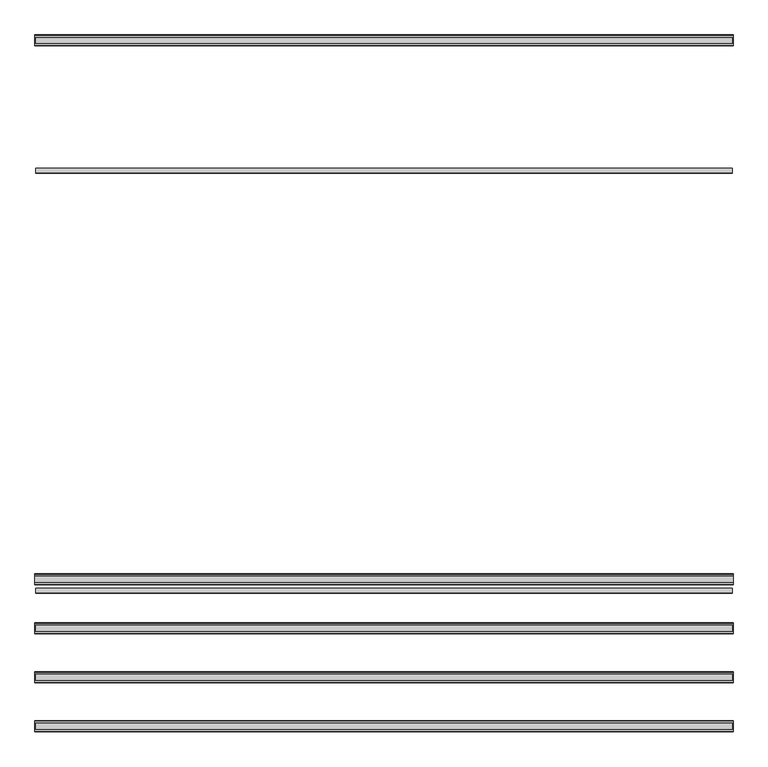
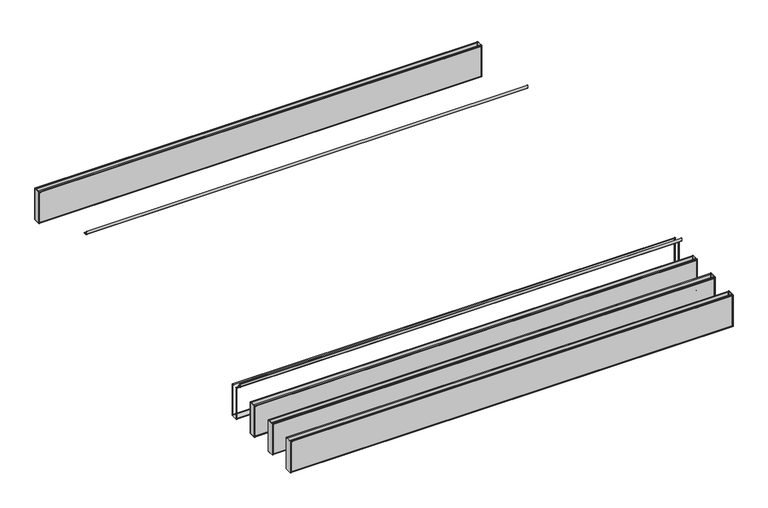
"""IFC4 building model written with IfcOpenShell, lengths in millimetres: proxy geometry, durlum_POLYLAM : durlum_POLYLAM 63."""

from ifc_helpers import new_model, si_unit, point, frame, frame_2d, origin, place, context, project, spatial, polyline, circle_curve, trimmed, segment, composite_curve, outline, extrude, source, transform, mapped, element, save
from ifc_brep_helpers import plane_surface, cylinder_surface, advanced_brep


def generic_models_7fa63ab6(model_context):
    return source(origin(), model_context, "Body", "SolidModel", [
        advanced_brep(
        [(1995.0, -1090.5, 2016.9), (1995.0, -1100.5, 2016.9), (1995.0, -1100.5, 2015.9), (1995.0, -1089.5, 2015.9), (1995.0, -1089.5, 1717.9), (1995.0, -1150.5, 1717.9), (1995.0, -1150.5, 2015.8155735), (1995.0, -1139.5, 2015.8155735), (1995.0, -1139.5, 2016.9), (1995.0, -1149.5, 2016.9), (1995.0, -1151.5, 2014.9), (1995.0, -1151.5, 1718.9), (1995.0, -1149.5, 1716.9), (1995.0, -1090.5, 1716.9), (1995.0, -1088.5, 1718.9), (1995.0, -1088.5, 2014.9), (-1995.0, -1090.5, 2016.9), (-1995.0, -1088.5, 2014.9), (-1995.0, -1088.5, 1718.9), (-1995.0, -1090.5, 1716.9), (-1995.0, -1149.5, 1716.9), (-1995.0, -1151.5, 1718.9), (-1995.0, -1151.5, 2014.9), (-1995.0, -1149.5, 2016.9), (-1995.0, -1139.5, 2016.9), (-1995.0, -1139.5, 2015.8155735), (-1995.0, -1150.5, 2015.8155735), (-1995.0, -1150.5, 1717.9), (-1995.0, -1089.5, 1717.9), (-1995.0, -1089.5, 2015.9), (-1995.0, -1100.5, 2015.9), (-1995.0, -1100.5, 2016.9), (-1986.5, -1089.5, 2008.4), (1986.5, -1089.5, 2008.4), (1986.5, -1089.5, 1725.4), (-1986.5, -1089.5, 1725.4), (1986.5, -1150.5, 2008.4), (-1986.5, -1150.5, 2008.4), (-1986.5, -1150.5, 1725.4), (1986.5, -1150.5, 1725.4), (-1986.5, -1151.5, 2008.4), (1986.5, -1151.5, 2008.4), (1986.5, -1151.5, 1725.4), (-1986.5, -1151.5, 1725.4), (1986.5, -1088.5, 2008.4), (-1986.5, -1088.5, 2008.4), (-1986.5, -1088.5, 1725.4), (1986.5, -1088.5, 1725.4)],
        [
            (0, 1),
            (1, 2),
            (2, 3),
            (3, 4),
            (4, 5),
            (5, 6),
            (6, 7),
            (7, 8),
            (8, 9),
            (9, 10, circle_curve(frame((1995.0, -1149.5, 2014.9), z_axis=(1.0, 0.0, 0.0), x_axis=(0.0, 1.0, 0.0)), 2.0)),
            (10, 11),
            (11, 12, circle_curve(frame((1995.0, -1149.5, 1718.9), z_axis=(1.0, 0.0, 0.0), x_axis=(0.0, 1.0, 0.0)), 2.0)),
            (12, 13),
            (13, 14, circle_curve(frame((1995.0, -1090.5, 1718.9), z_axis=(1.0, 0.0, 0.0), x_axis=(0.0, 1.0, 0.0)), 2.0)),
            (14, 15),
            (15, 0, circle_curve(frame((1995.0, -1090.5, 2014.9), z_axis=(1.0, 0.0, 0.0), x_axis=(0.0, 1.0, 0.0)), 2.0)),
            (16, 17, circle_curve(frame((-1995.0, -1090.5, 2014.9), z_axis=(-1.0, 0.0, 0.0), x_axis=(0.0, 1.0, 0.0)), 2.0)),
            (17, 18),
            (18, 19, circle_curve(frame((-1995.0, -1090.5, 1718.9), z_axis=(-1.0, 0.0, 0.0), x_axis=(0.0, 1.0, 0.0)), 2.0)),
            (19, 20),
            (20, 21, circle_curve(frame((-1995.0, -1149.5, 1718.9), z_axis=(-1.0, 0.0, 0.0), x_axis=(0.0, 1.0, 0.0)), 2.0)),
            (21, 22),
            (22, 23, circle_curve(frame((-1995.0, -1149.5, 2014.9), z_axis=(-1.0, 0.0, 0.0), x_axis=(0.0, 1.0, 0.0)), 2.0)),
            (23, 24),
            (24, 25),
            (25, 26),
            (26, 27),
            (27, 28),
            (28, 29),
            (29, 30),
            (30, 31),
            (31, 16),
            (0, 16),
            (31, 1),
            (30, 2),
            (29, 3),
            (28, 4),
            (32, 33),
            (33, 34),
            (34, 35),
            (35, 32),
            (27, 5),
            (26, 6),
            (36, 37),
            (37, 38),
            (38, 39),
            (39, 36),
            (25, 7),
            (24, 8),
            (23, 9),
            (10, 22),
            (21, 11),
            (40, 41),
            (41, 42),
            (42, 43),
            (43, 40),
            (12, 20),
            (19, 13),
            (14, 18),
            (17, 15),
            (44, 45),
            (45, 46),
            (46, 47),
            (47, 44),
            (44, 33),
            (32, 45),
            (36, 41),
            (40, 37),
            (35, 46),
            (43, 38),
            (34, 47),
            (42, 39),
        ],
        [
            plane_surface(frame((1995.0, -1100.5, 2016.9), z_axis=(1.0, 0.0, 0.0), x_axis=(0.0, -1.0, 0.0))),
            plane_surface(frame((-1995.0, -1100.5, 2016.9), z_axis=(-1.0, 0.0, 0.0), x_axis=(0.0, 1.0, 0.0))),
            plane_surface(frame((1995.0, -1090.5, 2016.9), z_axis=(0.0, 0.0, 1.0), x_axis=(-1.0, 0.0, 0.0))),
            plane_surface(frame((1995.0, -1100.5, 2016.9), z_axis=(0.0, -1.0, 0.0), x_axis=(-1.0, 0.0, 0.0))),
            plane_surface(frame((1995.0, -1100.5, 2015.9), z_axis=(0.0, 0.0, -1.0), x_axis=(-1.0, 0.0, 0.0))),
            plane_surface(frame((1995.0, -1089.5, 2015.9), z_axis=(0.0, -1.0, 0.0), x_axis=(-1.0, 0.0, 0.0))),
            plane_surface(frame((1995.0, -1089.5, 1717.9), z_axis=(0.0, 0.0, 1.0), x_axis=(-1.0, 0.0, 0.0))),
            plane_surface(frame((1995.0, -1150.5, 1717.9), z_axis=(0.0, 1.0, 0.0), x_axis=(-1.0, 0.0, 0.0))),
            plane_surface(frame((1995.0, -1150.5, 2015.8155735), z_axis=(0.0, 0.0, -1.0), x_axis=(-1.0, 0.0, 0.0))),
            plane_surface(frame((1995.0, -1139.5, 2015.8155735), z_axis=(0.0, 1.0, 0.0), x_axis=(-1.0, 0.0, 0.0))),
            plane_surface(frame((1995.0, -1139.5, 2016.9), z_axis=(0.0, 0.0, 1.0), x_axis=(-1.0, 0.0, 0.0))),
            plane_surface(frame((1995.0, -1151.5, 2014.9), z_axis=(0.0, -1.0, 0.0), x_axis=(-1.0, 0.0, 0.0))),
            plane_surface(frame((1995.0, -1149.5, 1716.9), z_axis=(0.0, 0.0, -1.0), x_axis=(-1.0, 0.0, 0.0))),
            plane_surface(frame((1995.0, -1088.5, 1718.9), z_axis=(0.0, 1.0, 0.0), x_axis=(-1.0, 0.0, 0.0))),
            cylinder_surface(frame((-1995.0, -1149.5, 2014.9), z_axis=(1.0, 0.0, 0.0), x_axis=(0.0, 1.0, 0.0)), 2.0),
            cylinder_surface(frame((-1995.0, -1149.5, 1718.9), z_axis=(1.0, 0.0, 0.0), x_axis=(0.0, 1.0, 0.0)), 2.0),
            cylinder_surface(frame((-1995.0, -1090.5, 1718.9), z_axis=(1.0, 0.0, 0.0), x_axis=(0.0, 1.0, 0.0)), 2.0),
            cylinder_surface(frame((-1995.0, -1090.5, 2014.9), z_axis=(1.0, 0.0, 0.0), x_axis=(0.0, 1.0, 0.0)), 2.0),
            plane_surface(frame((1986.5, -1151.5, 2008.4), z_axis=(0.0, 0.0, -1.0), x_axis=(0.0, 1.0, 0.0))),
            plane_surface(frame((-1986.5, -1151.5, 2008.4), z_axis=(1.0, 0.0, 0.0), x_axis=(0.0, 1.0, 0.0))),
            plane_surface(frame((-1986.5, -1151.5, 1725.4), z_axis=(0.0, 0.0, 1.0), x_axis=(0.0, 1.0, 0.0))),
            plane_surface(frame((1986.5, -1151.5, 1725.4), z_axis=(-1.0, 0.0, 0.0), x_axis=(0.0, 1.0, 0.0))),
        ],
        [
            (0, [[1, 2, 3, 4, 5, 6, 7, 8, 9, 10, 11, 12, 13, 14, 15, 16]]),
            (1, [[17, 18, 19, 20, 21, 22, 23, 24, 25, 26, 27, 28, 29, 30, 31, 32]]),
            (2, [[-1, 33, -32, 34]]),
            (3, [[-2, -34, -31, 35]]),
            (4, [[-3, -35, -30, 36]]),
            (5, [[-4, -36, -29, 37], [38, 39, 40, 41]]),
            (6, [[-5, -37, -28, 42]]),
            (7, [[-6, -42, -27, 43], [44, 45, 46, 47]]),
            (8, [[-7, -43, -26, 48]]),
            (9, [[-8, -48, -25, 49]]),
            (10, [[-9, -49, -24, 50]]),
            (11, [[-11, 51, -22, 52], [53, 54, 55, 56]]),
            (12, [[-13, 57, -20, 58]]),
            (13, [[-15, 59, -18, 60], [61, 62, 63, 64]]),
            (14, [[-10, -50, -23, -51]]),
            (15, [[-12, -52, -21, -57]]),
            (16, [[-14, -58, -19, -59]]),
            (17, [[-16, -60, -17, -33]]),
            (18, [[65, -38, 66, -61]]),
            (18, [[67, -53, 68, -44]]),
            (19, [[-66, -41, 69, -62]]),
            (19, [[-68, -56, 70, -45]]),
            (20, [[-69, -40, 71, -63]]),
            (20, [[-70, -55, 72, -46]]),
            (21, [[-65, -64, -71, -39]]),
            (21, [[-67, -47, -72, -54]]),
        ],
    ),
        extrude(outline(polyline([(1986.5, -1369.5), (-1986.5, -1369.5), (-1986.5, -1368.5), (1986.5, -1368.5), (1986.5, -1369.5)])), frame((0.0, 0.0, 1725.4), z_axis=(0.0, 0.0, 1.0), x_axis=(1.0, 0.0, 0.0)), (0.0, 0.0, 1.0), 283.0),
        extrude(outline(polyline([(1986.5, -1431.5), (-1986.5, -1431.5), (-1986.5, -1430.5), (1986.5, -1430.5), (1986.5, -1431.5)])), frame((0.0, 0.0, 1725.4), z_axis=(0.0, 0.0, 1.0), x_axis=(1.0, 0.0, 0.0)), (0.0, 0.0, 1.0), 283.0),
        extrude(outline(polyline([(1993.0, -1369.5), (1995.0, -1369.5), (1995.0, -1430.5), (1993.0, -1430.5), (1993.0, -1369.5)])), frame((0.0, 0.0, 1717.9), z_axis=(0.0, 0.0, 1.0), x_axis=(1.0, 0.0, 0.0)), (0.0, 0.0, 1.0), 298.0),
        extrude(outline(polyline([(-1995.0, -1369.5), (-1993.0, -1369.5), (-1993.0, -1430.5), (-1995.0, -1430.5), (-1995.0, -1369.5)])), frame((0.0, 0.0, 1717.9), z_axis=(0.0, 0.0, 1.0), x_axis=(1.0, 0.0, 0.0)), (0.0, 0.0, 1.0), 298.0),
        advanced_brep(
        [(1995.0, -1370.5, 2016.9), (1995.0, -1380.5, 2016.9), (1995.0, -1380.5, 2015.9), (1995.0, -1369.5, 2015.9), (1995.0, -1369.5, 1717.9), (1995.0, -1430.5, 1717.9), (1995.0, -1430.5, 2015.8155735), (1995.0, -1419.5, 2015.8155735), (1995.0, -1419.5, 2016.9), (1995.0, -1429.5, 2016.9), (1995.0, -1431.5, 2014.9), (1995.0, -1431.5, 1718.9), (1995.0, -1429.5, 1716.9), (1995.0, -1370.5, 1716.9), (1995.0, -1368.5, 1718.9), (1995.0, -1368.5, 2014.9), (-1995.0, -1370.5, 2016.9), (-1995.0, -1368.5, 2014.9), (-1995.0, -1368.5, 1718.9), (-1995.0, -1370.5, 1716.9), (-1995.0, -1429.5, 1716.9), (-1995.0, -1431.5, 1718.9), (-1995.0, -1431.5, 2014.9), (-1995.0, -1429.5, 2016.9), (-1995.0, -1419.5, 2016.9), (-1995.0, -1419.5, 2015.8155735), (-1995.0, -1430.5, 2015.8155735), (-1995.0, -1430.5, 1717.9), (-1995.0, -1369.5, 1717.9), (-1995.0, -1369.5, 2015.9), (-1995.0, -1380.5, 2015.9), (-1995.0, -1380.5, 2016.9), (-1986.5, -1369.5, 2008.4), (1986.5, -1369.5, 2008.4), (1986.5, -1369.5, 1725.4), (-1986.5, -1369.5, 1725.4), (1986.5, -1430.5, 2008.4), (-1986.5, -1430.5, 2008.4), (-1986.5, -1430.5, 1725.4), (1986.5, -1430.5, 1725.4), (-1986.5, -1431.5, 2008.4), (1986.5, -1431.5, 2008.4), (1986.5, -1431.5, 1725.4), (-1986.5, -1431.5, 1725.4), (1986.5, -1368.5, 2008.4), (-1986.5, -1368.5, 2008.4), (-1986.5, -1368.5, 1725.4), (1986.5, -1368.5, 1725.4)],
        [
            (0, 1),
            (1, 2),
            (2, 3),
            (3, 4),
            (4, 5),
            (5, 6),
            (6, 7),
            (7, 8),
            (8, 9),
            (9, 10, circle_curve(frame((1995.0, -1429.5, 2014.9), z_axis=(1.0, 0.0, 0.0), x_axis=(0.0, 1.0, 0.0)), 2.0)),
            (10, 11),
            (11, 12, circle_curve(frame((1995.0, -1429.5, 1718.9), z_axis=(1.0, 0.0, 0.0), x_axis=(0.0, 1.0, 0.0)), 2.0)),
            (12, 13),
            (13, 14, circle_curve(frame((1995.0, -1370.5, 1718.9), z_axis=(1.0, 0.0, 0.0), x_axis=(0.0, 1.0, 0.0)), 2.0)),
            (14, 15),
            (15, 0, circle_curve(frame((1995.0, -1370.5, 2014.9), z_axis=(1.0, 0.0, 0.0), x_axis=(0.0, 1.0, 0.0)), 2.0)),
            (16, 17, circle_curve(frame((-1995.0, -1370.5, 2014.9), z_axis=(-1.0, 0.0, 0.0), x_axis=(0.0, 1.0, 0.0)), 2.0)),
            (17, 18),
            (18, 19, circle_curve(frame((-1995.0, -1370.5, 1718.9), z_axis=(-1.0, 0.0, 0.0), x_axis=(0.0, 1.0, 0.0)), 2.0)),
            (19, 20),
            (20, 21, circle_curve(frame((-1995.0, -1429.5, 1718.9), z_axis=(-1.0, 0.0, 0.0), x_axis=(0.0, 1.0, 0.0)), 2.0)),
            (21, 22),
            (22, 23, circle_curve(frame((-1995.0, -1429.5, 2014.9), z_axis=(-1.0, 0.0, 0.0), x_axis=(0.0, 1.0, 0.0)), 2.0)),
            (23, 24),
            (24, 25),
            (25, 26),
            (26, 27),
            (27, 28),
            (28, 29),
            (29, 30),
            (30, 31),
            (31, 16),
            (0, 16),
            (31, 1),
            (30, 2),
            (29, 3),
            (28, 4),
            (32, 33),
            (33, 34),
            (34, 35),
            (35, 32),
            (27, 5),
            (26, 6),
            (36, 37),
            (37, 38),
            (38, 39),
            (39, 36),
            (25, 7),
            (24, 8),
            (23, 9),
            (10, 22),
            (21, 11),
            (40, 41),
            (41, 42),
            (42, 43),
            (43, 40),
            (12, 20),
            (19, 13),
            (14, 18),
            (17, 15),
            (44, 45),
            (45, 46),
            (46, 47),
            (47, 44),
            (44, 33),
            (32, 45),
            (36, 41),
            (40, 37),
            (35, 46),
            (43, 38),
            (34, 47),
            (42, 39),
        ],
        [
            plane_surface(frame((1995.0, -1380.5, 2016.9), z_axis=(1.0, 0.0, 0.0), x_axis=(0.0, -1.0, 0.0))),
            plane_surface(frame((-1995.0, -1380.5, 2016.9), z_axis=(-1.0, 0.0, 0.0), x_axis=(0.0, 1.0, 0.0))),
            plane_surface(frame((1995.0, -1370.5, 2016.9), z_axis=(0.0, 0.0, 1.0), x_axis=(-1.0, 0.0, 0.0))),
            plane_surface(frame((1995.0, -1380.5, 2016.9), z_axis=(0.0, -1.0, 0.0), x_axis=(-1.0, 0.0, 0.0))),
            plane_surface(frame((1995.0, -1380.5, 2015.9), z_axis=(0.0, 0.0, -1.0), x_axis=(-1.0, 0.0, 0.0))),
            plane_surface(frame((1995.0, -1369.5, 2015.9), z_axis=(0.0, -1.0, 0.0), x_axis=(-1.0, 0.0, 0.0))),
            plane_surface(frame((1995.0, -1369.5, 1717.9), z_axis=(0.0, 0.0, 1.0), x_axis=(-1.0, 0.0, 0.0))),
            plane_surface(frame((1995.0, -1430.5, 1717.9), z_axis=(0.0, 1.0, 0.0), x_axis=(-1.0, 0.0, 0.0))),
            plane_surface(frame((1995.0, -1430.5, 2015.8155735), z_axis=(0.0, 0.0, -1.0), x_axis=(-1.0, 0.0, 0.0))),
            plane_surface(frame((1995.0, -1419.5, 2015.8155735), z_axis=(0.0, 1.0, 0.0), x_axis=(-1.0, 0.0, 0.0))),
            plane_surface(frame((1995.0, -1419.5, 2016.9), z_axis=(0.0, 0.0, 1.0), x_axis=(-1.0, 0.0, 0.0))),
            plane_surface(frame((1995.0, -1431.5, 2014.9), z_axis=(0.0, -1.0, 0.0), x_axis=(-1.0, 0.0, 0.0))),
            plane_surface(frame((1995.0, -1429.5, 1716.9), z_axis=(0.0, 0.0, -1.0), x_axis=(-1.0, 0.0, 0.0))),
            plane_surface(frame((1995.0, -1368.5, 1718.9), z_axis=(0.0, 1.0, 0.0), x_axis=(-1.0, 0.0, 0.0))),
            cylinder_surface(frame((-1995.0, -1429.5, 2014.9), z_axis=(1.0, 0.0, 0.0), x_axis=(0.0, 1.0, 0.0)), 2.0),
            cylinder_surface(frame((-1995.0, -1429.5, 1718.9), z_axis=(1.0, 0.0, 0.0), x_axis=(0.0, 1.0, 0.0)), 2.0),
            cylinder_surface(frame((-1995.0, -1370.5, 1718.9), z_axis=(1.0, 0.0, 0.0), x_axis=(0.0, 1.0, 0.0)), 2.0),
            cylinder_surface(frame((-1995.0, -1370.5, 2014.9), z_axis=(1.0, 0.0, 0.0), x_axis=(0.0, 1.0, 0.0)), 2.0),
            plane_surface(frame((1986.5, -1431.5, 2008.4), z_axis=(0.0, 0.0, -1.0), x_axis=(0.0, 1.0, 0.0))),
            plane_surface(frame((-1986.5, -1431.5, 2008.4), z_axis=(1.0, 0.0, 0.0), x_axis=(0.0, 1.0, 0.0))),
            plane_surface(frame((-1986.5, -1431.5, 1725.4), z_axis=(0.0, 0.0, 1.0), x_axis=(0.0, 1.0, 0.0))),
            plane_surface(frame((1986.5, -1431.5, 1725.4), z_axis=(-1.0, 0.0, 0.0), x_axis=(0.0, 1.0, 0.0))),
        ],
        [
            (0, [[1, 2, 3, 4, 5, 6, 7, 8, 9, 10, 11, 12, 13, 14, 15, 16]]),
            (1, [[17, 18, 19, 20, 21, 22, 23, 24, 25, 26, 27, 28, 29, 30, 31, 32]]),
            (2, [[-1, 33, -32, 34]]),
            (3, [[-2, -34, -31, 35]]),
            (4, [[-3, -35, -30, 36]]),
            (5, [[-4, -36, -29, 37], [38, 39, 40, 41]]),
            (6, [[-5, -37, -28, 42]]),
            (7, [[-6, -42, -27, 43], [44, 45, 46, 47]]),
            (8, [[-7, -43, -26, 48]]),
            (9, [[-8, -48, -25, 49]]),
            (10, [[-9, -49, -24, 50]]),
            (11, [[-11, 51, -22, 52], [53, 54, 55, 56]]),
            (12, [[-13, 57, -20, 58]]),
            (13, [[-15, 59, -18, 60], [61, 62, 63, 64]]),
            (14, [[-10, -50, -23, -51]]),
            (15, [[-12, -52, -21, -57]]),
            (16, [[-14, -58, -19, -59]]),
            (17, [[-16, -60, -17, -33]]),
            (18, [[65, -38, 66, -61]]),
            (18, [[67, -53, 68, -44]]),
            (19, [[-66, -41, 69, -62]]),
            (19, [[-68, -56, 70, -45]]),
            (20, [[-69, -40, 71, -63]]),
            (20, [[-70, -55, 72, -46]]),
            (21, [[-65, -64, -71, -39]]),
            (21, [[-67, -47, -72, -54]]),
        ],
    ),
        extrude(outline(polyline([(1986.5, -1649.5), (-1986.5, -1649.5), (-1986.5, -1648.5), (1986.5, -1648.5), (1986.5, -1649.5)])), frame((0.0, 0.0, 1725.4), z_axis=(0.0, 0.0, 1.0), x_axis=(1.0, 0.0, 0.0)), (0.0, 0.0, 1.0), 283.0),
        extrude(outline(polyline([(1986.5, -1711.5), (-1986.5, -1711.5), (-1986.5, -1710.5), (1986.5, -1710.5), (1986.5, -1711.5)])), frame((0.0, 0.0, 1725.4), z_axis=(0.0, 0.0, 1.0), x_axis=(1.0, 0.0, 0.0)), (0.0, 0.0, 1.0), 283.0),
        extrude(outline(polyline([(1993.0, -1649.5), (1995.0, -1649.5), (1995.0, -1710.5), (1993.0, -1710.5), (1993.0, -1649.5)])), frame((0.0, 0.0, 1717.9), z_axis=(0.0, 0.0, 1.0), x_axis=(1.0, 0.0, 0.0)), (0.0, 0.0, 1.0), 298.0),
        extrude(outline(polyline([(-1995.0, -1649.5), (-1993.0, -1649.5), (-1993.0, -1710.5), (-1995.0, -1710.5), (-1995.0, -1649.5)])), frame((0.0, 0.0, 1717.9), z_axis=(0.0, 0.0, 1.0), x_axis=(1.0, 0.0, 0.0)), (0.0, 0.0, 1.0), 298.0),
        advanced_brep(
        [(1995.0, -1650.5, 2016.9), (1995.0, -1660.5, 2016.9), (1995.0, -1660.5, 2015.9), (1995.0, -1649.5, 2015.9), (1995.0, -1649.5, 1717.9), (1995.0, -1710.5, 1717.9), (1995.0, -1710.5, 2015.8155735), (1995.0, -1699.5, 2015.8155735), (1995.0, -1699.5, 2016.9), (1995.0, -1709.5, 2016.9), (1995.0, -1711.5, 2014.9), (1995.0, -1711.5, 1718.9), (1995.0, -1709.5, 1716.9), (1995.0, -1650.5, 1716.9), (1995.0, -1648.5, 1718.9), (1995.0, -1648.5, 2014.9), (-1995.0, -1650.5, 2016.9), (-1995.0, -1648.5, 2014.9), (-1995.0, -1648.5, 1718.9), (-1995.0, -1650.5, 1716.9), (-1995.0, -1709.5, 1716.9), (-1995.0, -1711.5, 1718.9), (-1995.0, -1711.5, 2014.9), (-1995.0, -1709.5, 2016.9), (-1995.0, -1699.5, 2016.9), (-1995.0, -1699.5, 2015.8155735), (-1995.0, -1710.5, 2015.8155735), (-1995.0, -1710.5, 1717.9), (-1995.0, -1649.5, 1717.9), (-1995.0, -1649.5, 2015.9), (-1995.0, -1660.5, 2015.9), (-1995.0, -1660.5, 2016.9), (-1986.5, -1649.5, 2008.4), (1986.5, -1649.5, 2008.4), (1986.5, -1649.5, 1725.4), (-1986.5, -1649.5, 1725.4), (1986.5, -1710.5, 2008.4), (-1986.5, -1710.5, 2008.4), (-1986.5, -1710.5, 1725.4), (1986.5, -1710.5, 1725.4), (-1986.5, -1711.5, 2008.4), (1986.5, -1711.5, 2008.4), (1986.5, -1711.5, 1725.4), (-1986.5, -1711.5, 1725.4), (1986.5, -1648.5, 2008.4), (-1986.5, -1648.5, 2008.4), (-1986.5, -1648.5, 1725.4), (1986.5, -1648.5, 1725.4)],
        [
            (0, 1),
            (1, 2),
            (2, 3),
            (3, 4),
            (4, 5),
            (5, 6),
            (6, 7),
            (7, 8),
            (8, 9),
            (9, 10, circle_curve(frame((1995.0, -1709.5, 2014.9), z_axis=(1.0, 0.0, 0.0), x_axis=(0.0, 1.0, 0.0)), 2.0)),
            (10, 11),
            (11, 12, circle_curve(frame((1995.0, -1709.5, 1718.9), z_axis=(1.0, 0.0, 0.0), x_axis=(0.0, 1.0, 0.0)), 2.0)),
            (12, 13),
            (13, 14, circle_curve(frame((1995.0, -1650.5, 1718.9), z_axis=(1.0, 0.0, 0.0), x_axis=(0.0, 1.0, 0.0)), 2.0)),
            (14, 15),
            (15, 0, circle_curve(frame((1995.0, -1650.5, 2014.9), z_axis=(1.0, 0.0, 0.0), x_axis=(0.0, 1.0, 0.0)), 2.0)),
            (16, 17, circle_curve(frame((-1995.0, -1650.5, 2014.9), z_axis=(-1.0, 0.0, 0.0), x_axis=(0.0, 1.0, 0.0)), 2.0)),
            (17, 18),
            (18, 19, circle_curve(frame((-1995.0, -1650.5, 1718.9), z_axis=(-1.0, 0.0, 0.0), x_axis=(0.0, 1.0, 0.0)), 2.0)),
            (19, 20),
            (20, 21, circle_curve(frame((-1995.0, -1709.5, 1718.9), z_axis=(-1.0, 0.0, 0.0), x_axis=(0.0, 1.0, 0.0)), 2.0)),
            (21, 22),
            (22, 23, circle_curve(frame((-1995.0, -1709.5, 2014.9), z_axis=(-1.0, 0.0, 0.0), x_axis=(0.0, 1.0, 0.0)), 2.0)),
            (23, 24),
            (24, 25),
            (25, 26),
            (26, 27),
            (27, 28),
            (28, 29),
            (29, 30),
            (30, 31),
            (31, 16),
            (0, 16),
            (31, 1),
            (30, 2),
            (29, 3),
            (28, 4),
            (32, 33),
            (33, 34),
            (34, 35),
            (35, 32),
            (27, 5),
            (26, 6),
            (36, 37),
            (37, 38),
            (38, 39),
            (39, 36),
            (25, 7),
            (24, 8),
            (23, 9),
            (10, 22),
            (21, 11),
            (40, 41),
            (41, 42),
            (42, 43),
            (43, 40),
            (12, 20),
            (19, 13),
            (14, 18),
            (17, 15),
            (44, 45),
            (45, 46),
            (46, 47),
            (47, 44),
            (44, 33),
            (32, 45),
            (36, 41),
            (40, 37),
            (35, 46),
            (43, 38),
            (34, 47),
            (42, 39),
        ],
        [
            plane_surface(frame((1995.0, -1660.5, 2016.9), z_axis=(1.0, 0.0, 0.0), x_axis=(0.0, -1.0, 0.0))),
            plane_surface(frame((-1995.0, -1660.5, 2016.9), z_axis=(-1.0, 0.0, 0.0), x_axis=(0.0, 1.0, 0.0))),
            plane_surface(frame((1995.0, -1650.5, 2016.9), z_axis=(0.0, 0.0, 1.0), x_axis=(-1.0, 0.0, 0.0))),
            plane_surface(frame((1995.0, -1660.5, 2016.9), z_axis=(0.0, -1.0, 0.0), x_axis=(-1.0, 0.0, 0.0))),
            plane_surface(frame((1995.0, -1660.5, 2015.9), z_axis=(0.0, 0.0, -1.0), x_axis=(-1.0, 0.0, 0.0))),
            plane_surface(frame((1995.0, -1649.5, 2015.9), z_axis=(0.0, -1.0, 0.0), x_axis=(-1.0, 0.0, 0.0))),
            plane_surface(frame((1995.0, -1649.5, 1717.9), z_axis=(0.0, 0.0, 1.0), x_axis=(-1.0, 0.0, 0.0))),
            plane_surface(frame((1995.0, -1710.5, 1717.9), z_axis=(0.0, 1.0, 0.0), x_axis=(-1.0, 0.0, 0.0))),
            plane_surface(frame((1995.0, -1710.5, 2015.8155735), z_axis=(0.0, 0.0, -1.0), x_axis=(-1.0, 0.0, 0.0))),
            plane_surface(frame((1995.0, -1699.5, 2015.8155735), z_axis=(0.0, 1.0, 0.0), x_axis=(-1.0, 0.0, 0.0))),
            plane_surface(frame((1995.0, -1699.5, 2016.9), z_axis=(0.0, 0.0, 1.0), x_axis=(-1.0, 0.0, 0.0))),
            plane_surface(frame((1995.0, -1711.5, 2014.9), z_axis=(0.0, -1.0, 0.0), x_axis=(-1.0, 0.0, 0.0))),
            plane_surface(frame((1995.0, -1709.5, 1716.9), z_axis=(0.0, 0.0, -1.0), x_axis=(-1.0, 0.0, 0.0))),
            plane_surface(frame((1995.0, -1648.5, 1718.9), z_axis=(0.0, 1.0, 0.0), x_axis=(-1.0, 0.0, 0.0))),
            cylinder_surface(frame((-1995.0, -1709.5, 2014.9), z_axis=(1.0, 0.0, 0.0), x_axis=(0.0, 1.0, 0.0)), 2.0),
            cylinder_surface(frame((-1995.0, -1709.5, 1718.9), z_axis=(1.0, 0.0, 0.0), x_axis=(0.0, 1.0, 0.0)), 2.0),
            cylinder_surface(frame((-1995.0, -1650.5, 1718.9), z_axis=(1.0, 0.0, 0.0), x_axis=(0.0, 1.0, 0.0)), 2.0),
            cylinder_surface(frame((-1995.0, -1650.5, 2014.9), z_axis=(1.0, 0.0, 0.0), x_axis=(0.0, 1.0, 0.0)), 2.0),
            plane_surface(frame((1986.5, -1711.5, 2008.4), z_axis=(0.0, 0.0, -1.0), x_axis=(0.0, 1.0, 0.0))),
            plane_surface(frame((-1986.5, -1711.5, 2008.4), z_axis=(1.0, 0.0, 0.0), x_axis=(0.0, 1.0, 0.0))),
            plane_surface(frame((-1986.5, -1711.5, 1725.4), z_axis=(0.0, 0.0, 1.0), x_axis=(0.0, 1.0, 0.0))),
            plane_surface(frame((1986.5, -1711.5, 1725.4), z_axis=(-1.0, 0.0, 0.0), x_axis=(0.0, 1.0, 0.0))),
        ],
        [
            (0, [[1, 2, 3, 4, 5, 6, 7, 8, 9, 10, 11, 12, 13, 14, 15, 16]]),
            (1, [[17, 18, 19, 20, 21, 22, 23, 24, 25, 26, 27, 28, 29, 30, 31, 32]]),
            (2, [[-1, 33, -32, 34]]),
            (3, [[-2, -34, -31, 35]]),
            (4, [[-3, -35, -30, 36]]),
            (5, [[-4, -36, -29, 37], [38, 39, 40, 41]]),
            (6, [[-5, -37, -28, 42]]),
            (7, [[-6, -42, -27, 43], [44, 45, 46, 47]]),
            (8, [[-7, -43, -26, 48]]),
            (9, [[-8, -48, -25, 49]]),
            (10, [[-9, -49, -24, 50]]),
            (11, [[-11, 51, -22, 52], [53, 54, 55, 56]]),
            (12, [[-13, 57, -20, 58]]),
            (13, [[-15, 59, -18, 60], [61, 62, 63, 64]]),
            (14, [[-10, -50, -23, -51]]),
            (15, [[-12, -52, -21, -57]]),
            (16, [[-14, -58, -19, -59]]),
            (17, [[-16, -60, -17, -33]]),
            (18, [[65, -38, 66, -61]]),
            (18, [[67, -53, 68, -44]]),
            (19, [[-66, -41, 69, -62]]),
            (19, [[-68, -56, 70, -45]]),
            (20, [[-69, -40, 71, -63]]),
            (20, [[-70, -55, 72, -46]]),
            (21, [[-65, -64, -71, -39]]),
            (21, [[-67, -47, -72, -54]]),
        ],
    ),
        extrude(outline(polyline([(1986.5, 1990.5), (-1986.5, 1990.5), (-1986.5, 1991.5), (1986.5, 1991.5), (1986.5, 1990.5)])), frame((0.0, 0.0, 1725.4), z_axis=(0.0, 0.0, 1.0), x_axis=(1.0, 0.0, 0.0)), (0.0, 0.0, 1.0), 283.0),
        extrude(outline(polyline([(1986.5, 1928.5), (-1986.5, 1928.5), (-1986.5, 1929.5), (1986.5, 1929.5), (1986.5, 1928.5)])), frame((0.0, 0.0, 1725.4), z_axis=(0.0, 0.0, 1.0), x_axis=(1.0, 0.0, 0.0)), (0.0, 0.0, 1.0), 283.0),
        extrude(outline(polyline([(1993.0, 1990.5), (1995.0, 1990.5), (1995.0, 1929.5), (1993.0, 1929.5), (1993.0, 1990.5)])), frame((0.0, 0.0, 1717.9), z_axis=(0.0, 0.0, 1.0), x_axis=(1.0, 0.0, 0.0)), (0.0, 0.0, 1.0), 298.0),
        extrude(outline(polyline([(-1995.0, 1990.5), (-1993.0, 1990.5), (-1993.0, 1929.5), (-1995.0, 1929.5), (-1995.0, 1990.5)])), frame((0.0, 0.0, 1717.9), z_axis=(0.0, 0.0, 1.0), x_axis=(1.0, 0.0, 0.0)), (0.0, 0.0, 1.0), 298.0),
        advanced_brep(
        [(1995.0, 1989.5, 2016.9), (1995.0, 1979.5, 2016.9), (1995.0, 1979.5, 2015.9), (1995.0, 1990.5, 2015.9), (1995.0, 1990.5, 1717.9), (1995.0, 1929.5, 1717.9), (1995.0, 1929.5, 2015.8155735), (1995.0, 1940.5, 2015.8155735), (1995.0, 1940.5, 2016.9), (1995.0, 1930.5, 2016.9), (1995.0, 1928.5, 2014.9), (1995.0, 1928.5, 1718.9), (1995.0, 1930.5, 1716.9), (1995.0, 1989.5, 1716.9), (1995.0, 1991.5, 1718.9), (1995.0, 1991.5, 2014.9), (-1995.0, 1989.5, 2016.9), (-1995.0, 1991.5, 2014.9), (-1995.0, 1991.5, 1718.9), (-1995.0, 1989.5, 1716.9), (-1995.0, 1930.5, 1716.9), (-1995.0, 1928.5, 1718.9), (-1995.0, 1928.5, 2014.9), (-1995.0, 1930.5, 2016.9), (-1995.0, 1940.5, 2016.9), (-1995.0, 1940.5, 2015.8155735), (-1995.0, 1929.5, 2015.8155735), (-1995.0, 1929.5, 1717.9), (-1995.0, 1990.5, 1717.9), (-1995.0, 1990.5, 2015.9), (-1995.0, 1979.5, 2015.9), (-1995.0, 1979.5, 2016.9), (-1986.5, 1990.5, 2008.4), (1986.5, 1990.5, 2008.4), (1986.5, 1990.5, 1725.4), (-1986.5, 1990.5, 1725.4), (1986.5, 1929.5, 2008.4), (-1986.5, 1929.5, 2008.4), (-1986.5, 1929.5, 1725.4), (1986.5, 1929.5, 1725.4), (-1986.5, 1928.5, 2008.4), (1986.5, 1928.5, 2008.4), (1986.5, 1928.5, 1725.4), (-1986.5, 1928.5, 1725.4), (1986.5, 1991.5, 2008.4), (-1986.5, 1991.5, 2008.4), (-1986.5, 1991.5, 1725.4), (1986.5, 1991.5, 1725.4)],
        [
            (0, 1),
            (1, 2),
            (2, 3),
            (3, 4),
            (4, 5),
            (5, 6),
            (6, 7),
            (7, 8),
            (8, 9),
            (9, 10, circle_curve(frame((1995.0, 1930.5, 2014.9), z_axis=(1.0, 0.0, 0.0), x_axis=(0.0, 1.0, 0.0)), 2.0)),
            (10, 11),
            (11, 12, circle_curve(frame((1995.0, 1930.5, 1718.9), z_axis=(1.0, 0.0, 0.0), x_axis=(0.0, 1.0, 0.0)), 2.0)),
            (12, 13),
            (13, 14, circle_curve(frame((1995.0, 1989.5, 1718.9), z_axis=(1.0, 0.0, 0.0), x_axis=(0.0, 1.0, 0.0)), 2.0)),
            (14, 15),
            (15, 0, circle_curve(frame((1995.0, 1989.5, 2014.9), z_axis=(1.0, 0.0, 0.0), x_axis=(0.0, 1.0, 0.0)), 2.0)),
            (16, 17, circle_curve(frame((-1995.0, 1989.5, 2014.9), z_axis=(-1.0, 0.0, 0.0), x_axis=(0.0, 1.0, 0.0)), 2.0)),
            (17, 18),
            (18, 19, circle_curve(frame((-1995.0, 1989.5, 1718.9), z_axis=(-1.0, 0.0, 0.0), x_axis=(0.0, 1.0, 0.0)), 2.0)),
            (19, 20),
            (20, 21, circle_curve(frame((-1995.0, 1930.5, 1718.9), z_axis=(-1.0, 0.0, 0.0), x_axis=(0.0, 1.0, 0.0)), 2.0)),
            (21, 22),
            (22, 23, circle_curve(frame((-1995.0, 1930.5, 2014.9), z_axis=(-1.0, 0.0, 0.0), x_axis=(0.0, 1.0, 0.0)), 2.0)),
            (23, 24),
            (24, 25),
            (25, 26),
            (26, 27),
            (27, 28),
            (28, 29),
            (29, 30),
            (30, 31),
            (31, 16),
            (0, 16),
            (31, 1),
            (30, 2),
            (29, 3),
            (28, 4),
            (32, 33),
            (33, 34),
            (34, 35),
            (35, 32),
            (27, 5),
            (26, 6),
            (36, 37),
            (37, 38),
            (38, 39),
            (39, 36),
            (25, 7),
            (24, 8),
            (23, 9),
            (10, 22),
            (21, 11),
            (40, 41),
            (41, 42),
            (42, 43),
            (43, 40),
            (12, 20),
            (19, 13),
            (14, 18),
            (17, 15),
            (44, 45),
            (45, 46),
            (46, 47),
            (47, 44),
            (44, 33),
            (32, 45),
            (36, 41),
            (40, 37),
            (35, 46),
            (43, 38),
            (34, 47),
            (42, 39),
        ],
        [
            plane_surface(frame((1995.0, 1979.5, 2016.9), z_axis=(1.0, 0.0, 0.0), x_axis=(0.0, -1.0, 0.0))),
            plane_surface(frame((-1995.0, 1979.5, 2016.9), z_axis=(-1.0, 0.0, 0.0), x_axis=(0.0, 1.0, 0.0))),
            plane_surface(frame((1995.0, 1989.5, 2016.9), z_axis=(0.0, 0.0, 1.0), x_axis=(-1.0, 0.0, 0.0))),
            plane_surface(frame((1995.0, 1979.5, 2016.9), z_axis=(0.0, -1.0, 0.0), x_axis=(-1.0, 0.0, 0.0))),
            plane_surface(frame((1995.0, 1979.5, 2015.9), z_axis=(0.0, 0.0, -1.0), x_axis=(-1.0, 0.0, 0.0))),
            plane_surface(frame((1995.0, 1990.5, 2015.9), z_axis=(0.0, -1.0, 0.0), x_axis=(-1.0, 0.0, 0.0))),
            plane_surface(frame((1995.0, 1990.5, 1717.9), z_axis=(0.0, 0.0, 1.0), x_axis=(-1.0, 0.0, 0.0))),
            plane_surface(frame((1995.0, 1929.5, 1717.9), z_axis=(0.0, 1.0, 0.0), x_axis=(-1.0, 0.0, 0.0))),
            plane_surface(frame((1995.0, 1929.5, 2015.8155735), z_axis=(0.0, 0.0, -1.0), x_axis=(-1.0, 0.0, 0.0))),
            plane_surface(frame((1995.0, 1940.5, 2015.8155735), z_axis=(0.0, 1.0, 0.0), x_axis=(-1.0, 0.0, 0.0))),
            plane_surface(frame((1995.0, 1940.5, 2016.9), z_axis=(0.0, 0.0, 1.0), x_axis=(-1.0, 0.0, 0.0))),
            plane_surface(frame((1995.0, 1928.5, 2014.9), z_axis=(0.0, -1.0, 0.0), x_axis=(-1.0, 0.0, 0.0))),
            plane_surface(frame((1995.0, 1930.5, 1716.9), z_axis=(0.0, 0.0, -1.0), x_axis=(-1.0, 0.0, 0.0))),
            plane_surface(frame((1995.0, 1991.5, 1718.9), z_axis=(0.0, 1.0, 0.0), x_axis=(-1.0, 0.0, 0.0))),
            cylinder_surface(frame((-1995.0, 1930.5, 2014.9), z_axis=(1.0, 0.0, 0.0), x_axis=(0.0, 1.0, 0.0)), 2.0),
            cylinder_surface(frame((-1995.0, 1930.5, 1718.9), z_axis=(1.0, 0.0, 0.0), x_axis=(0.0, 1.0, 0.0)), 2.0),
            cylinder_surface(frame((-1995.0, 1989.5, 1718.9), z_axis=(1.0, 0.0, 0.0), x_axis=(0.0, 1.0, 0.0)), 2.0),
            cylinder_surface(frame((-1995.0, 1989.5, 2014.9), z_axis=(1.0, 0.0, 0.0), x_axis=(0.0, 1.0, 0.0)), 2.0),
            plane_surface(frame((1986.5, 1928.5, 2008.4), z_axis=(0.0, 0.0, -1.0), x_axis=(0.0, 1.0, 0.0))),
            plane_surface(frame((-1986.5, 1928.5, 2008.4), z_axis=(1.0, 0.0, 0.0), x_axis=(0.0, 1.0, 0.0))),
            plane_surface(frame((-1986.5, 1928.5, 1725.4), z_axis=(0.0, 0.0, 1.0), x_axis=(0.0, 1.0, 0.0))),
            plane_surface(frame((1986.5, 1928.5, 1725.4), z_axis=(-1.0, 0.0, 0.0), x_axis=(0.0, 1.0, 0.0))),
        ],
        [
            (0, [[1, 2, 3, 4, 5, 6, 7, 8, 9, 10, 11, 12, 13, 14, 15, 16]]),
            (1, [[17, 18, 19, 20, 21, 22, 23, 24, 25, 26, 27, 28, 29, 30, 31, 32]]),
            (2, [[-1, 33, -32, 34]]),
            (3, [[-2, -34, -31, 35]]),
            (4, [[-3, -35, -30, 36]]),
            (5, [[-4, -36, -29, 37], [38, 39, 40, 41]]),
            (6, [[-5, -37, -28, 42]]),
            (7, [[-6, -42, -27, 43], [44, 45, 46, 47]]),
            (8, [[-7, -43, -26, 48]]),
            (9, [[-8, -48, -25, 49]]),
            (10, [[-9, -49, -24, 50]]),
            (11, [[-11, 51, -22, 52], [53, 54, 55, 56]]),
            (12, [[-13, 57, -20, 58]]),
            (13, [[-15, 59, -18, 60], [61, 62, 63, 64]]),
            (14, [[-10, -50, -23, -51]]),
            (15, [[-12, -52, -21, -57]]),
            (16, [[-14, -58, -19, -59]]),
            (17, [[-16, -60, -17, -33]]),
            (18, [[65, -38, 66, -61]]),
            (18, [[67, -53, 68, -44]]),
            (19, [[-66, -41, 69, -62]]),
            (19, [[-68, -56, 70, -45]]),
            (20, [[-69, -40, 71, -63]]),
            (20, [[-70, -55, 72, -46]]),
            (21, [[-65, -64, -71, -39]]),
            (21, [[-67, -47, -72, -54]]),
        ],
    ),
        extrude(outline(polyline([(1986.5, -1929.5), (-1986.5, -1929.5), (-1986.5, -1928.5), (1986.5, -1928.5), (1986.5, -1929.5)])), frame((0.0, 0.0, 1725.4), z_axis=(0.0, 0.0, 1.0), x_axis=(1.0, 0.0, 0.0)), (0.0, 0.0, 1.0), 283.0),
        extrude(outline(polyline([(1986.5, -1991.5), (-1986.5, -1991.5), (-1986.5, -1990.5), (1986.5, -1990.5), (1986.5, -1991.5)])), frame((0.0, 0.0, 1725.4), z_axis=(0.0, 0.0, 1.0), x_axis=(1.0, 0.0, 0.0)), (0.0, 0.0, 1.0), 283.0),
        extrude(outline(polyline([(1993.0, -1929.5), (1995.0, -1929.5), (1995.0, -1990.5), (1993.0, -1990.5), (1993.0, -1929.5)])), frame((0.0, 0.0, 1717.9), z_axis=(0.0, 0.0, 1.0), x_axis=(1.0, 0.0, 0.0)), (0.0, 0.0, 1.0), 298.0),
        extrude(outline(polyline([(-1995.0, -1929.5), (-1993.0, -1929.5), (-1993.0, -1990.5), (-1995.0, -1990.5), (-1995.0, -1929.5)])), frame((0.0, 0.0, 1717.9), z_axis=(0.0, 0.0, 1.0), x_axis=(1.0, 0.0, 0.0)), (0.0, 0.0, 1.0), 298.0),
        advanced_brep(
        [(1995.0, -1930.5, 2016.9), (1995.0, -1940.5, 2016.9), (1995.0, -1940.5, 2015.9), (1995.0, -1929.5, 2015.9), (1995.0, -1929.5, 1717.9), (1995.0, -1990.5, 1717.9), (1995.0, -1990.5, 2015.8155735), (1995.0, -1979.5, 2015.8155735), (1995.0, -1979.5, 2016.9), (1995.0, -1989.5, 2016.9), (1995.0, -1991.5, 2014.9), (1995.0, -1991.5, 1718.9), (1995.0, -1989.5, 1716.9), (1995.0, -1930.5, 1716.9), (1995.0, -1928.5, 1718.9), (1995.0, -1928.5, 2014.9), (-1995.0, -1930.5, 2016.9), (-1995.0, -1928.5, 2014.9), (-1995.0, -1928.5, 1718.9), (-1995.0, -1930.5, 1716.9), (-1995.0, -1989.5, 1716.9), (-1995.0, -1991.5, 1718.9), (-1995.0, -1991.5, 2014.9), (-1995.0, -1989.5, 2016.9), (-1995.0, -1979.5, 2016.9), (-1995.0, -1979.5, 2015.8155735), (-1995.0, -1990.5, 2015.8155735), (-1995.0, -1990.5, 1717.9), (-1995.0, -1929.5, 1717.9), (-1995.0, -1929.5, 2015.9), (-1995.0, -1940.5, 2015.9), (-1995.0, -1940.5, 2016.9), (-1986.5, -1929.5, 2008.4), (1986.5, -1929.5, 2008.4), (1986.5, -1929.5, 1725.4), (-1986.5, -1929.5, 1725.4), (1986.5, -1990.5, 2008.4), (-1986.5, -1990.5, 2008.4), (-1986.5, -1990.5, 1725.4), (1986.5, -1990.5, 1725.4), (-1986.5, -1991.5, 2008.4), (1986.5, -1991.5, 2008.4), (1986.5, -1991.5, 1725.4), (-1986.5, -1991.5, 1725.4), (1986.5, -1928.5, 2008.4), (-1986.5, -1928.5, 2008.4), (-1986.5, -1928.5, 1725.4), (1986.5, -1928.5, 1725.4)],
        [
            (0, 1),
            (1, 2),
            (2, 3),
            (3, 4),
            (4, 5),
            (5, 6),
            (6, 7),
            (7, 8),
            (8, 9),
            (9, 10, circle_curve(frame((1995.0, -1989.5, 2014.9), z_axis=(1.0, 0.0, 0.0), x_axis=(0.0, 1.0, 0.0)), 2.0)),
            (10, 11),
            (11, 12, circle_curve(frame((1995.0, -1989.5, 1718.9), z_axis=(1.0, 0.0, 0.0), x_axis=(0.0, 1.0, 0.0)), 2.0)),
            (12, 13),
            (13, 14, circle_curve(frame((1995.0, -1930.5, 1718.9), z_axis=(1.0, 0.0, 0.0), x_axis=(0.0, 1.0, 0.0)), 2.0)),
            (14, 15),
            (15, 0, circle_curve(frame((1995.0, -1930.5, 2014.9), z_axis=(1.0, 0.0, 0.0), x_axis=(0.0, 1.0, 0.0)), 2.0)),
            (16, 17, circle_curve(frame((-1995.0, -1930.5, 2014.9), z_axis=(-1.0, 0.0, 0.0), x_axis=(0.0, 1.0, 0.0)), 2.0)),
            (17, 18),
            (18, 19, circle_curve(frame((-1995.0, -1930.5, 1718.9), z_axis=(-1.0, 0.0, 0.0), x_axis=(0.0, 1.0, 0.0)), 2.0)),
            (19, 20),
            (20, 21, circle_curve(frame((-1995.0, -1989.5, 1718.9), z_axis=(-1.0, 0.0, 0.0), x_axis=(0.0, 1.0, 0.0)), 2.0)),
            (21, 22),
            (22, 23, circle_curve(frame((-1995.0, -1989.5, 2014.9), z_axis=(-1.0, 0.0, 0.0), x_axis=(0.0, 1.0, 0.0)), 2.0)),
            (23, 24),
            (24, 25),
            (25, 26),
            (26, 27),
            (27, 28),
            (28, 29),
            (29, 30),
            (30, 31),
            (31, 16),
            (0, 16),
            (31, 1),
            (30, 2),
            (29, 3),
            (28, 4),
            (32, 33),
            (33, 34),
            (34, 35),
            (35, 32),
            (27, 5),
            (26, 6),
            (36, 37),
            (37, 38),
            (38, 39),
            (39, 36),
            (25, 7),
            (24, 8),
            (23, 9),
            (10, 22),
            (21, 11),
            (40, 41),
            (41, 42),
            (42, 43),
            (43, 40),
            (12, 20),
            (19, 13),
            (14, 18),
            (17, 15),
            (44, 45),
            (45, 46),
            (46, 47),
            (47, 44),
            (44, 33),
            (32, 45),
            (36, 41),
            (40, 37),
            (35, 46),
            (43, 38),
            (34, 47),
            (42, 39),
        ],
        [
            plane_surface(frame((1995.0, -1940.5, 2016.9), z_axis=(1.0, 0.0, 0.0), x_axis=(0.0, -1.0, 0.0))),
            plane_surface(frame((-1995.0, -1940.5, 2016.9), z_axis=(-1.0, 0.0, 0.0), x_axis=(0.0, 1.0, 0.0))),
            plane_surface(frame((1995.0, -1930.5, 2016.9), z_axis=(0.0, 0.0, 1.0), x_axis=(-1.0, 0.0, 0.0))),
            plane_surface(frame((1995.0, -1940.5, 2016.9), z_axis=(0.0, -1.0, 0.0), x_axis=(-1.0, 0.0, 0.0))),
            plane_surface(frame((1995.0, -1940.5, 2015.9), z_axis=(0.0, 0.0, -1.0), x_axis=(-1.0, 0.0, 0.0))),
            plane_surface(frame((1995.0, -1929.5, 2015.9), z_axis=(0.0, -1.0, 0.0), x_axis=(-1.0, 0.0, 0.0))),
            plane_surface(frame((1995.0, -1929.5, 1717.9), z_axis=(0.0, 0.0, 1.0), x_axis=(-1.0, 0.0, 0.0))),
            plane_surface(frame((1995.0, -1990.5, 1717.9), z_axis=(0.0, 1.0, 0.0), x_axis=(-1.0, 0.0, 0.0))),
            plane_surface(frame((1995.0, -1990.5, 2015.8155735), z_axis=(0.0, 0.0, -1.0), x_axis=(-1.0, 0.0, 0.0))),
            plane_surface(frame((1995.0, -1979.5, 2015.8155735), z_axis=(0.0, 1.0, 0.0), x_axis=(-1.0, 0.0, 0.0))),
            plane_surface(frame((1995.0, -1979.5, 2016.9), z_axis=(0.0, 0.0, 1.0), x_axis=(-1.0, 0.0, 0.0))),
            plane_surface(frame((1995.0, -1991.5, 2014.9), z_axis=(0.0, -1.0, 0.0), x_axis=(-1.0, 0.0, 0.0))),
            plane_surface(frame((1995.0, -1989.5, 1716.9), z_axis=(0.0, 0.0, -1.0), x_axis=(-1.0, 0.0, 0.0))),
            plane_surface(frame((1995.0, -1928.5, 1718.9), z_axis=(0.0, 1.0, 0.0), x_axis=(-1.0, 0.0, 0.0))),
            cylinder_surface(frame((-1995.0, -1989.5, 2014.9), z_axis=(1.0, 0.0, 0.0), x_axis=(0.0, 1.0, 0.0)), 2.0),
            cylinder_surface(frame((-1995.0, -1989.5, 1718.9), z_axis=(1.0, 0.0, 0.0), x_axis=(0.0, 1.0, 0.0)), 2.0),
            cylinder_surface(frame((-1995.0, -1930.5, 1718.9), z_axis=(1.0, 0.0, 0.0), x_axis=(0.0, 1.0, 0.0)), 2.0),
            cylinder_surface(frame((-1995.0, -1930.5, 2014.9), z_axis=(1.0, 0.0, 0.0), x_axis=(0.0, 1.0, 0.0)), 2.0),
            plane_surface(frame((1986.5, -1991.5, 2008.4), z_axis=(0.0, 0.0, -1.0), x_axis=(0.0, 1.0, 0.0))),
            plane_surface(frame((-1986.5, -1991.5, 2008.4), z_axis=(1.0, 0.0, 0.0), x_axis=(0.0, 1.0, 0.0))),
            plane_surface(frame((-1986.5, -1991.5, 1725.4), z_axis=(0.0, 0.0, 1.0), x_axis=(0.0, 1.0, 0.0))),
            plane_surface(frame((1986.5, -1991.5, 1725.4), z_axis=(-1.0, 0.0, 0.0), x_axis=(0.0, 1.0, 0.0))),
        ],
        [
            (0, [[1, 2, 3, 4, 5, 6, 7, 8, 9, 10, 11, 12, 13, 14, 15, 16]]),
            (1, [[17, 18, 19, 20, 21, 22, 23, 24, 25, 26, 27, 28, 29, 30, 31, 32]]),
            (2, [[-1, 33, -32, 34]]),
            (3, [[-2, -34, -31, 35]]),
            (4, [[-3, -35, -30, 36]]),
            (5, [[-4, -36, -29, 37], [38, 39, 40, 41]]),
            (6, [[-5, -37, -28, 42]]),
            (7, [[-6, -42, -27, 43], [44, 45, 46, 47]]),
            (8, [[-7, -43, -26, 48]]),
            (9, [[-8, -48, -25, 49]]),
            (10, [[-9, -49, -24, 50]]),
            (11, [[-11, 51, -22, 52], [53, 54, 55, 56]]),
            (12, [[-13, 57, -20, 58]]),
            (13, [[-15, 59, -18, 60], [61, 62, 63, 64]]),
            (14, [[-10, -50, -23, -51]]),
            (15, [[-12, -52, -21, -57]]),
            (16, [[-14, -58, -19, -59]]),
            (17, [[-16, -60, -17, -33]]),
            (18, [[65, -38, 66, -61]]),
            (18, [[67, -53, 68, -44]]),
            (19, [[-66, -41, 69, -62]]),
            (19, [[-68, -56, 70, -45]]),
            (20, [[-69, -40, 71, -63]]),
            (20, [[-70, -55, 72, -46]]),
            (21, [[-65, -64, -71, -39]]),
            (21, [[-67, -47, -72, -54]]),
        ],
    ),
        extrude(outline(composite_curve([segment(polyline([(-1198.0, 2079.9), (-1198.0, 2054.0)]), True, "CONTINUOUS"), segment(trimmed(circle_curve(frame_2d((-1196.0, 2054.0)), 2.0), [point((-1198.0, 2054.0))], [point((-1196.0, 2052.0))], True, "CARTESIAN"), True, "CONTINUOUS"), segment(polyline([(-1196.0, 2052.0), (-1170.1, 2052.0), (-1170.1, 2050.0), (-1196.0, 2050.0)]), True, "CONTINUOUS"), segment(trimmed(circle_curve(frame_2d((-1196.0, 2054.0)), 4.0), [point((-1196.0, 2050.0))], [point((-1200.0, 2054.0))], False, "CARTESIAN"), True, "CONTINUOUS"), segment(polyline([(-1200.0, 2054.0), (-1200.0, 2079.9), (-1198.0, 2079.9)]), True, "CONTINUOUS")], self_intersect=False)), frame((-1990.0, 0.0, 0.0), z_axis=(1.0, 0.0, 0.0), x_axis=(0.0, 1.0, 0.0)), (0.0, 0.0, 1.0), 3980.0),
        extrude(outline(composite_curve([segment(polyline([(1202.0, 2079.9), (1202.0, 2054.0)]), True, "CONTINUOUS"), segment(trimmed(circle_curve(frame_2d((1204.0, 2054.0)), 2.0), [point((1202.0, 2054.0))], [point((1204.0, 2052.0))], True, "CARTESIAN"), True, "CONTINUOUS"), segment(polyline([(1204.0, 2052.0), (1229.9, 2052.0), (1229.9, 2050.0), (1204.0, 2050.0)]), True, "CONTINUOUS"), segment(trimmed(circle_curve(frame_2d((1204.0, 2054.0)), 4.0), [point((1204.0, 2050.0))], [point((1200.0, 2054.0))], False, "CARTESIAN"), True, "CONTINUOUS"), segment(polyline([(1200.0, 2054.0), (1200.0, 2079.9), (1202.0, 2079.9)]), True, "CONTINUOUS")], self_intersect=False)), frame((-1990.0, 0.0, 0.0), z_axis=(1.0, 0.0, 0.0), x_axis=(0.0, 1.0, 0.0)), (0.0, 0.0, 1.0), 3980.0),
    ])


if __name__ == "__main__":
    model = new_model("IFC4")
    model_context = context("Model", 3, world=origin())
    ifc_project = project(units=[si_unit("LENGTHUNIT", "METRE", prefix="MILLI")], contexts=[model_context])
    site = spatial("IfcSite", under=ifc_project)
    building = spatial("IfcBuilding", under=site)
    placement = place(None, origin())
    generic_models_shape = generic_models_7fa63ab6(model_context)
    element("IfcBuildingElementProxy", 1, Name="durlum_POLYLAM : durlum_POLYLAM 63", ObjectType="durlum_POLYLAM : durlum_POLYLAM 63", at=placement, inside=building, context=model_context, shape_type="MappedRepresentation", body=[
        mapped(generic_models_shape, transform((0.0, 0.0, 0.0), x_axis=(1.0, 0.0, 0.0), y_axis=(0.0, 1.0, 0.0), z_axis=(0.0, 0.0, 1.0))),
    ])
    save(model, "model.ifc")
